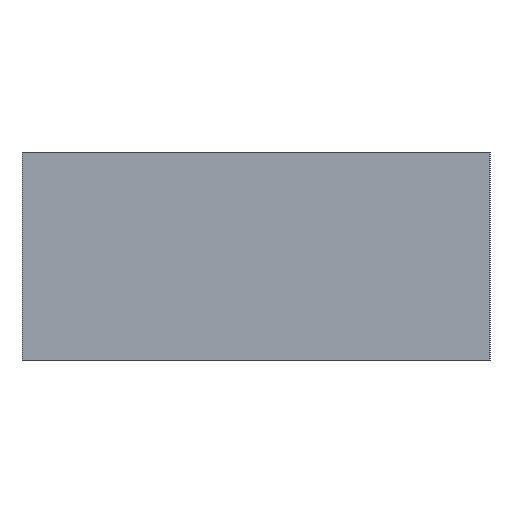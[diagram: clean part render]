
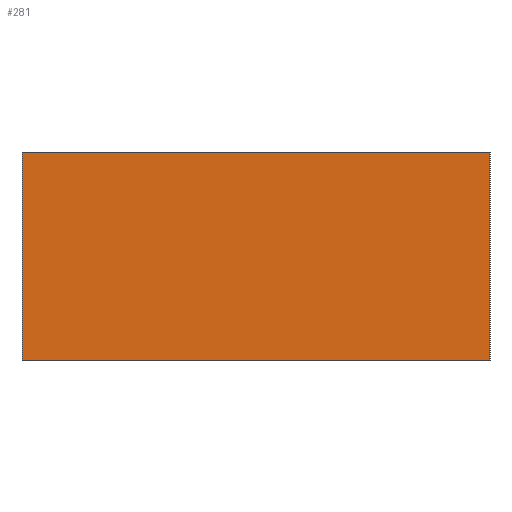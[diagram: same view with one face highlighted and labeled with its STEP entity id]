
A CAD part, left-side view. The second image highlights one B-rep face of the part: STEP entity #281.
In plain terms, the highlighted planar face has unit normal (-1, 0, 0).
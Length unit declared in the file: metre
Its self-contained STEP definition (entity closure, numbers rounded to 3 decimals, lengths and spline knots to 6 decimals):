
#34=ORIENTED_EDGE('',*,*,#114,.F.);
#35=ORIENTED_EDGE('',*,*,#115,.F.);
#36=ORIENTED_EDGE('',*,*,#116,.T.);
#37=ORIENTED_EDGE('',*,*,#111,.T.);
#111=EDGE_CURVE('',#152,#150,#174,.T.);
#114=EDGE_CURVE('',#154,#150,#177,.T.);
#115=EDGE_CURVE('',#155,#154,#178,.T.);
#116=EDGE_CURVE('',#155,#152,#179,.T.);
#150=VERTEX_POINT('',#430);
#152=VERTEX_POINT('',#433);
#154=VERTEX_POINT('',#439);
#155=VERTEX_POINT('',#441);
#174=LINE('',#432,#208);
#177=LINE('',#438,#211);
#178=LINE('',#440,#212);
#179=LINE('',#442,#213);
#208=VECTOR('',#348,1.);
#211=VECTOR('',#353,1.);
#212=VECTOR('',#354,1.);
#213=VECTOR('',#355,1.);
#236=EDGE_LOOP('',(#34,#35,#36,#37));
#252=FACE_BOUND('',#236,.T.);
#268=PLANE('',#312);
#281=ADVANCED_FACE('',(#252),#268,.T.);
#312=AXIS2_PLACEMENT_3D('',#437,#351,#352);
#348=DIRECTION('',(0.,0.,-1.));
#351=DIRECTION('',(-1.,0.,0.));
#352=DIRECTION('',(0.,-1.,0.));
#353=DIRECTION('',(0.,1.,0.));
#354=DIRECTION('',(0.,0.,-1.));
#355=DIRECTION('',(0.,1.,0.));
#430=CARTESIAN_POINT('',(-0.0161,0.01175,0.));
#432=CARTESIAN_POINT('',(-0.0161,0.01175,0.01));
#433=CARTESIAN_POINT('',(-0.0161,0.01175,0.01));
#437=CARTESIAN_POINT('',(-0.0161,0.0005,0.01));
#438=CARTESIAN_POINT('',(-0.0161,0.0005,0.));
#439=CARTESIAN_POINT('',(-0.0161,-0.01075,0.));
#440=CARTESIAN_POINT('',(-0.0161,-0.01075,0.01));
#441=CARTESIAN_POINT('',(-0.0161,-0.01075,0.01));
#442=CARTESIAN_POINT('',(-0.0161,0.0005,0.01));
